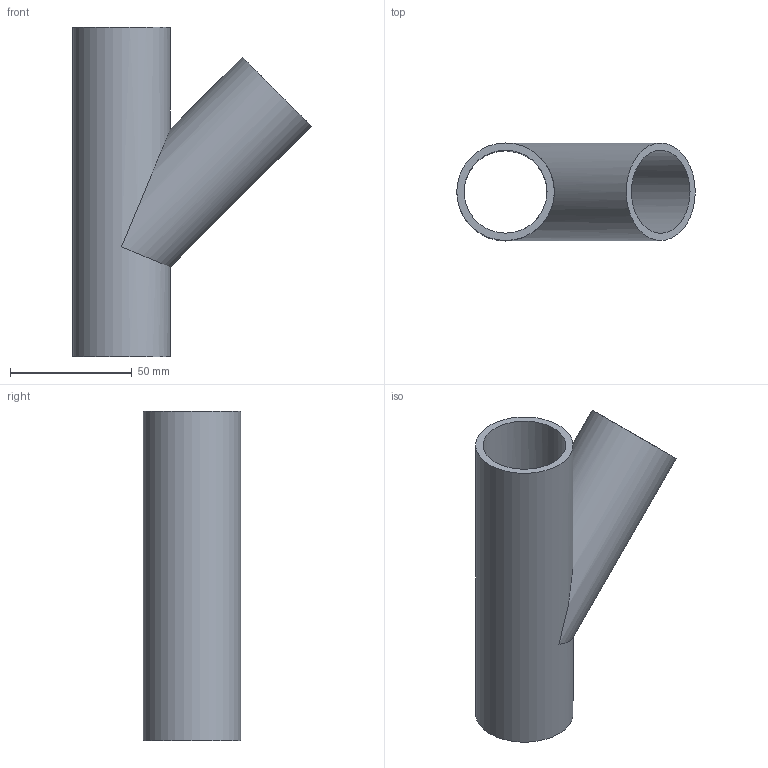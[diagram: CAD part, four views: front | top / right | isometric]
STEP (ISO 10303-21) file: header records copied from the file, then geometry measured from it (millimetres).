
FILE_DESCRIPTION(/* description */ (''),/* implementation_level */ '2;1');
FILE_NAME(/* name */ 'C:\Planerdaten\Export PLA\PRO_101557\stp\360109.stp',/* time_stamp */ '2021-09-30T15:03:22+02:00',/* author */ ('JANAN'),/* organization */ (''),/* preprocessor_version */ 'ST-DEVELOPER v16.13',/* originating_system */ 'Autodesk Inventor 2018',/* authorisation */ '');
FILE_SCHEMA (('AUTOMOTIVE_DESIGN { 1 0 10303 214 3 1 1 }'));
Length unit declared in the file: millimetre
Products named in the file (1): tmpE17B.tmp
Bounding box: 97.78 x 40 x 135 mm (x, y, z)
Volume: 66819.5 mm3; surface area: 45558.5 mm2
Topology: 1 solids, 1 shells, 7 faces, 19 edges, 14 vertices
Faces by surface type: cylinder 4, plane 3
Full cylindrical faces by diameter (mm): 34 x2, 40 x2
Entity records: 228 total; most frequent: DIRECTION 36, CARTESIAN_POINT 28, ORIENTED_EDGE 20, AXIS2_PLACEMENT_3D 18, EDGE_LOOP 16, VERTEX_POINT 10, EDGE_CURVE 10, FACE_BOUND 9
